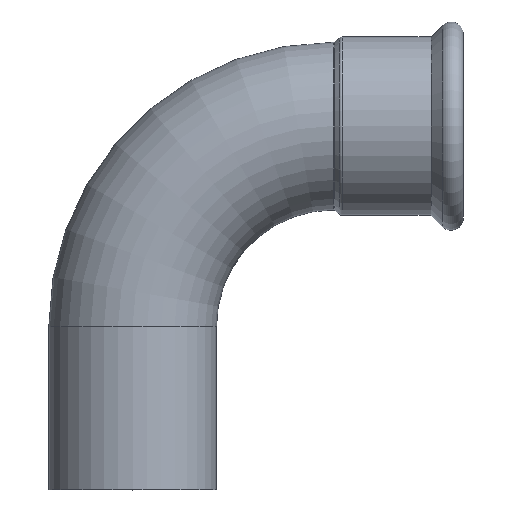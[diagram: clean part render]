
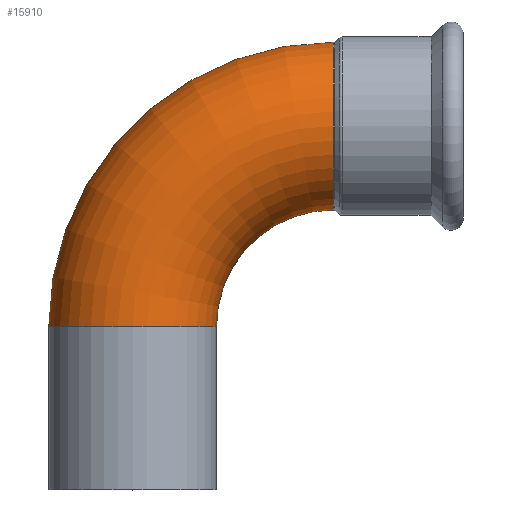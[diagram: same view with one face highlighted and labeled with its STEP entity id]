
A CAD part, top view. The second image highlights one B-rep face of the part: STEP entity #15910.
In plain terms, the highlighted toroidal (fillet/blend) face has major radius 91 mm and minor radius 38.05 mm.
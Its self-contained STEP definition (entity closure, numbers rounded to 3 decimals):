
#13520=CARTESIAN_POINT('',(4.,0.,0.));
#13530=DIRECTION('',(-1.,0.,0.));
#13540=DIRECTION('',(0.,1.,0.));
#13550=AXIS2_PLACEMENT_3D('',#13520,#13530,#13540);
#13560=CIRCLE('',#13550,38.05);
#13570=CARTESIAN_POINT('',(4.,0.,38.05));
#13580=VERTEX_POINT('',#13570);
#13590=CARTESIAN_POINT('',(4.,38.05,0.));
#13600=VERTEX_POINT('',#13590);
#13610=EDGE_CURVE('',#13580,#13600,#13560,.T.);
#13750=CARTESIAN_POINT('',(4.,-38.05,0.));
#13760=VERTEX_POINT('',#13750);
#13790=EDGE_CURVE('',#13760,#13580,#13560,.T.);
#14280=CARTESIAN_POINT('',(4.,-91.,0.));
#14290=DIRECTION('',(0.,0.,1.));
#14300=DIRECTION('',(0.,1.,0.));
#14310=AXIS2_PLACEMENT_3D('',#14280,#14290,#14300);
#14320=TOROIDAL_SURFACE('',#14310,91.,38.05);
#14330=CARTESIAN_POINT('',(-87.,-91.,0.));
#14340=DIRECTION('',(0.,-1.,0.));
#14350=DIRECTION('',(-1.,0.,0.));
#14360=AXIS2_PLACEMENT_3D('',#14330,#14340,#14350);
#14370=CIRCLE('',#14360,38.05);
#14400=CARTESIAN_POINT('',(-48.95,-91.,0.));
#14410=VERTEX_POINT('',#14400);
#14440=CARTESIAN_POINT('',(4.,-91.,0.));
#14450=DIRECTION('',(0.,0.,1.));
#14460=DIRECTION('',(0.,1.,0.));
#14470=AXIS2_PLACEMENT_3D('',#14440,#14450,#14460);
#14480=CIRCLE('',#14470,52.95);
#14490=EDGE_CURVE('',#13760,#14410,#14480,.T.);
#14580=CARTESIAN_POINT('',(4.,-91.,0.));
#14590=DIRECTION('',(0.,0.,1.));
#14600=DIRECTION('',(0.,1.,0.));
#14610=AXIS2_PLACEMENT_3D('',#14580,#14590,#14600);
#14620=CIRCLE('',#14610,129.05);
#14630=CARTESIAN_POINT('',(-125.05,-91.,0.));
#14640=VERTEX_POINT('',#14630);
#14650=EDGE_CURVE('',#13600,#14640,#14620,.T.);
#15830=ORIENTED_EDGE('',*,*,#14490,.F.);
#15840=EDGE_CURVE('',#14410,#14640,#14370,.T.);
#15850=ORIENTED_EDGE('',*,*,#15840,.F.);
#15860=ORIENTED_EDGE('',*,*,#14650,.T.);
#15870=ORIENTED_EDGE('',*,*,#13610,.T.);
#15880=ORIENTED_EDGE('',*,*,#13790,.T.);
#15890=EDGE_LOOP('',(#15880,#15870,#15860,#15850,#15830));
#15900=FACE_OUTER_BOUND('',#15890,.T.);
#15910=ADVANCED_FACE('',(#15900),#14320,.T.);
